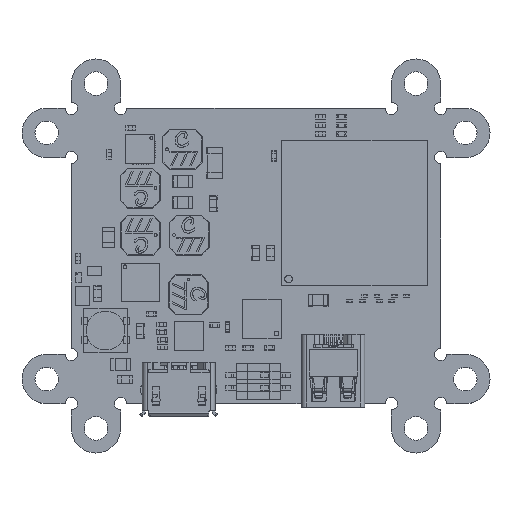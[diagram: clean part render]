
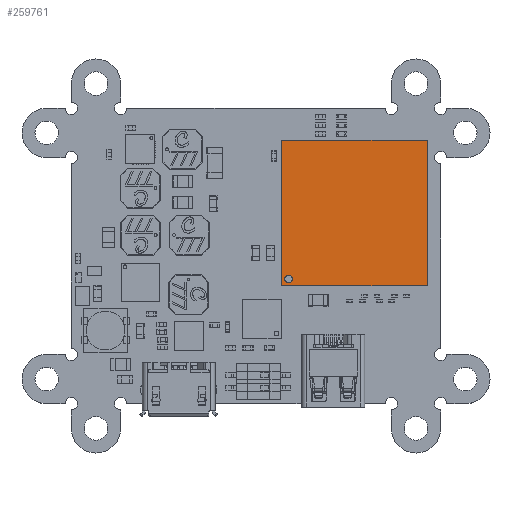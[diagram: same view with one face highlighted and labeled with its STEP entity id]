
A CAD part, top view. The second image highlights one B-rep face of the part: STEP entity #259761.
In plain terms, the highlighted planar face has unit normal (0, 0, 1).
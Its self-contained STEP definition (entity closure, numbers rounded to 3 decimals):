
#259447 = VERTEX_POINT('',#259448);
#259448 = CARTESIAN_POINT('',(-7.5,-7.5,1.25));
#259455 = PLANE('',#259456);
#259456 = AXIS2_PLACEMENT_3D('',#259457,#259458,#259459);
#259457 = CARTESIAN_POINT('',(-7.5,-7.5,0.));
#259458 = DIRECTION('',(0.,1.,0.));
#259459 = DIRECTION('',(1.,0.,0.));
#259467 = PLANE('',#259468);
#259468 = AXIS2_PLACEMENT_3D('',#259469,#259470,#259471);
#259469 = CARTESIAN_POINT('',(-7.5,7.5,0.));
#259470 = DIRECTION('',(1.,0.,0.));
#259471 = DIRECTION('',(0.,-1.,0.));
#259479 = EDGE_CURVE('',#259447,#259480,#259482,.T.);
#259480 = VERTEX_POINT('',#259481);
#259481 = CARTESIAN_POINT('',(7.5,-7.5,1.25));
#259482 = SURFACE_CURVE('',#259483,(#259487,#259494),.PCURVE_S1.);
#259483 = LINE('',#259484,#259485);
#259484 = CARTESIAN_POINT('',(-7.5,-7.5,1.25));
#259485 = VECTOR('',#259486,1.);
#259486 = DIRECTION('',(1.,0.,0.));
#259487 = PCURVE('',#259455,#259488);
#259488 = DEFINITIONAL_REPRESENTATION('',(#259489),#259493);
#259489 = LINE('',#259490,#259491);
#259490 = CARTESIAN_POINT('',(0.,-1.25));
#259491 = VECTOR('',#259492,1.);
#259492 = DIRECTION('',(1.,0.));
#259493 = ( GEOMETRIC_REPRESENTATION_CONTEXT(2) 
PARAMETRIC_REPRESENTATION_CONTEXT() REPRESENTATION_CONTEXT('2D SPACE',''
  ) );
#259494 = PCURVE('',#259495,#259500);
#259495 = PLANE('',#259496);
#259496 = AXIS2_PLACEMENT_3D('',#259497,#259498,#259499);
#259497 = CARTESIAN_POINT('',(-7.5,-7.5,1.25));
#259498 = DIRECTION('',(0.,0.,-1.));
#259499 = DIRECTION('',(-1.,0.,0.));
#259500 = DEFINITIONAL_REPRESENTATION('',(#259501),#259505);
#259501 = LINE('',#259502,#259503);
#259502 = CARTESIAN_POINT('',(0.,0.));
#259503 = VECTOR('',#259504,1.);
#259504 = DIRECTION('',(-1.,0.));
#259505 = ( GEOMETRIC_REPRESENTATION_CONTEXT(2) 
PARAMETRIC_REPRESENTATION_CONTEXT() REPRESENTATION_CONTEXT('2D SPACE',''
  ) );
#259523 = PLANE('',#259524);
#259524 = AXIS2_PLACEMENT_3D('',#259525,#259526,#259527);
#259525 = CARTESIAN_POINT('',(7.5,-7.5,0.));
#259526 = DIRECTION('',(-1.,0.,0.));
#259527 = DIRECTION('',(0.,1.,0.));
#259565 = EDGE_CURVE('',#259480,#259566,#259568,.T.);
#259566 = VERTEX_POINT('',#259567);
#259567 = CARTESIAN_POINT('',(7.5,7.5,1.25));
#259568 = SURFACE_CURVE('',#259569,(#259573,#259580),.PCURVE_S1.);
#259569 = LINE('',#259570,#259571);
#259570 = CARTESIAN_POINT('',(7.5,-7.5,1.25));
#259571 = VECTOR('',#259572,1.);
#259572 = DIRECTION('',(0.,1.,0.));
#259573 = PCURVE('',#259523,#259574);
#259574 = DEFINITIONAL_REPRESENTATION('',(#259575),#259579);
#259575 = LINE('',#259576,#259577);
#259576 = CARTESIAN_POINT('',(0.,-1.25));
#259577 = VECTOR('',#259578,1.);
#259578 = DIRECTION('',(1.,0.));
#259579 = ( GEOMETRIC_REPRESENTATION_CONTEXT(2) 
PARAMETRIC_REPRESENTATION_CONTEXT() REPRESENTATION_CONTEXT('2D SPACE',''
  ) );
#259580 = PCURVE('',#259495,#259581);
#259581 = DEFINITIONAL_REPRESENTATION('',(#259582),#259586);
#259582 = LINE('',#259583,#259584);
#259583 = CARTESIAN_POINT('',(-15.,0.));
#259584 = VECTOR('',#259585,1.);
#259585 = DIRECTION('',(0.,1.));
#259586 = ( GEOMETRIC_REPRESENTATION_CONTEXT(2) 
PARAMETRIC_REPRESENTATION_CONTEXT() REPRESENTATION_CONTEXT('2D SPACE',''
  ) );
#259604 = PLANE('',#259605);
#259605 = AXIS2_PLACEMENT_3D('',#259606,#259607,#259608);
#259606 = CARTESIAN_POINT('',(7.5,7.5,0.));
#259607 = DIRECTION('',(0.,-1.,0.));
#259608 = DIRECTION('',(-1.,0.,0.));
#259641 = EDGE_CURVE('',#259566,#259642,#259644,.T.);
#259642 = VERTEX_POINT('',#259643);
#259643 = CARTESIAN_POINT('',(-7.5,7.5,1.25));
#259644 = SURFACE_CURVE('',#259645,(#259649,#259656),.PCURVE_S1.);
#259645 = LINE('',#259646,#259647);
#259646 = CARTESIAN_POINT('',(7.5,7.5,1.25));
#259647 = VECTOR('',#259648,1.);
#259648 = DIRECTION('',(-1.,0.,0.));
#259649 = PCURVE('',#259604,#259650);
#259650 = DEFINITIONAL_REPRESENTATION('',(#259651),#259655);
#259651 = LINE('',#259652,#259653);
#259652 = CARTESIAN_POINT('',(0.,-1.25));
#259653 = VECTOR('',#259654,1.);
#259654 = DIRECTION('',(1.,0.));
#259655 = ( GEOMETRIC_REPRESENTATION_CONTEXT(2) 
PARAMETRIC_REPRESENTATION_CONTEXT() REPRESENTATION_CONTEXT('2D SPACE',''
  ) );
#259656 = PCURVE('',#259495,#259657);
#259657 = DEFINITIONAL_REPRESENTATION('',(#259658),#259662);
#259658 = LINE('',#259659,#259660);
#259659 = CARTESIAN_POINT('',(-15.,15.));
#259660 = VECTOR('',#259661,1.);
#259661 = DIRECTION('',(1.,0.));
#259662 = ( GEOMETRIC_REPRESENTATION_CONTEXT(2) 
PARAMETRIC_REPRESENTATION_CONTEXT() REPRESENTATION_CONTEXT('2D SPACE',''
  ) );
#259712 = EDGE_CURVE('',#259642,#259447,#259713,.T.);
#259713 = SURFACE_CURVE('',#259714,(#259718,#259725),.PCURVE_S1.);
#259714 = LINE('',#259715,#259716);
#259715 = CARTESIAN_POINT('',(-7.5,7.5,1.25));
#259716 = VECTOR('',#259717,1.);
#259717 = DIRECTION('',(0.,-1.,0.));
#259718 = PCURVE('',#259467,#259719);
#259719 = DEFINITIONAL_REPRESENTATION('',(#259720),#259724);
#259720 = LINE('',#259721,#259722);
#259721 = CARTESIAN_POINT('',(0.,-1.25));
#259722 = VECTOR('',#259723,1.);
#259723 = DIRECTION('',(1.,0.));
#259724 = ( GEOMETRIC_REPRESENTATION_CONTEXT(2) 
PARAMETRIC_REPRESENTATION_CONTEXT() REPRESENTATION_CONTEXT('2D SPACE',''
  ) );
#259725 = PCURVE('',#259495,#259726);
#259726 = DEFINITIONAL_REPRESENTATION('',(#259727),#259731);
#259727 = LINE('',#259728,#259729);
#259728 = CARTESIAN_POINT('',(0.,15.));
#259729 = VECTOR('',#259730,1.);
#259730 = DIRECTION('',(0.,-1.));
#259731 = ( GEOMETRIC_REPRESENTATION_CONTEXT(2) 
PARAMETRIC_REPRESENTATION_CONTEXT() REPRESENTATION_CONTEXT('2D SPACE',''
  ) );
#259761 = ADVANCED_FACE('',(#259762),#259495,.F.);
#259762 = FACE_BOUND('',#259763,.T.);
#259763 = EDGE_LOOP('',(#259764,#259765,#259766,#259767));
#259764 = ORIENTED_EDGE('',*,*,#259479,.T.);
#259765 = ORIENTED_EDGE('',*,*,#259565,.T.);
#259766 = ORIENTED_EDGE('',*,*,#259641,.T.);
#259767 = ORIENTED_EDGE('',*,*,#259712,.T.);
